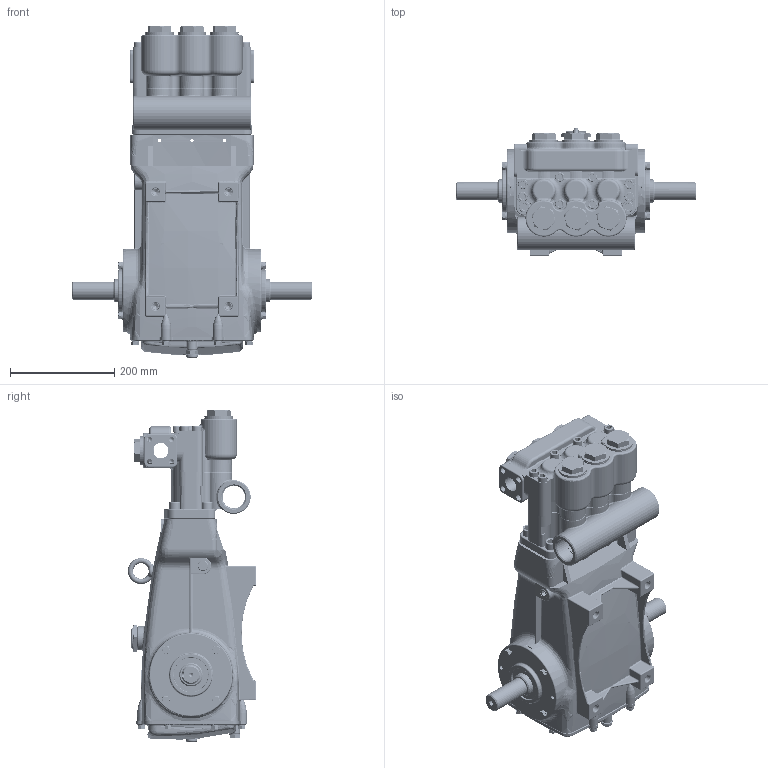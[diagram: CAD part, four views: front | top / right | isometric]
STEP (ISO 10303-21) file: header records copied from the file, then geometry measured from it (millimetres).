
FILE_DESCRIPTION (( 'STEP AP214' ), '1' );
FILE_NAME ('para3521.STEP', '2012-12-13T11:01:02', ( '' ), ( '' ), 'SwSTEP 2.0', 'SolidWorks 2012', '' );
FILE_SCHEMA (( 'AUTOMOTIVE_DESIGN' ));
Length unit declared in the file: millimetre
Products named in the file (1): para3521
Bounding box: 460 x 246.1 x 637 mm (x, y, z)
Volume: 8876440.8 mm3; surface area: 1767533.7 mm2
Topology: 3 solids, 56 shells, 5432 faces, 13325 edges, 8199 vertices
Faces by surface type: plane 2073, cylinder 1467, bspline 800, torus 566, cone 482, sphere 44
Entity records: 245058 total; most frequent: CARTESIAN_POINT 77375, ORIENTED_EDGE 26232, DIRECTION 24916, EDGE_CURVE 13116, AXIS2_PLACEMENT_3D 9582, VERTEX_POINT 8187, EDGE_LOOP 5883, LINE 5752
